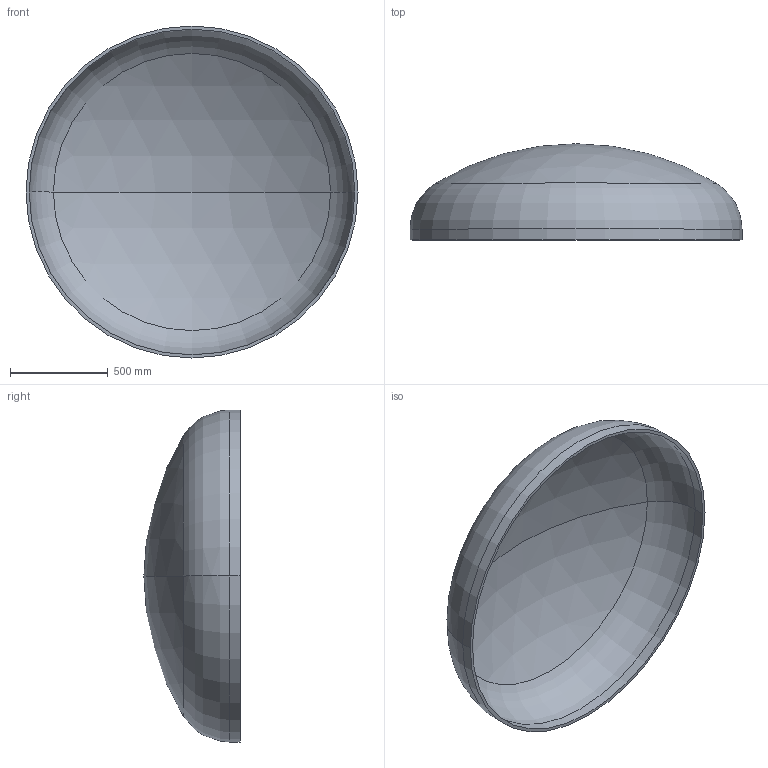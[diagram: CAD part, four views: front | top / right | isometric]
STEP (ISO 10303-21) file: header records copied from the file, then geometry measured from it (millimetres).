
FILE_DESCRIPTION (( 'STEP AP203' ), '1' );
FILE_NAME ('DIN 28013 Korbbogenform_-_Boden DIN 28013 - 1700 x 55 - I - s=16.step', '2016-07-01T11:38:57', ( '' ), ( '' ), 'SwSTEP 2.0', 'SolidWorks 2013', '' );
FILE_SCHEMA (( 'CONFIG_CONTROL_DESIGN' ));
Length unit declared in the file: millimetre
Products named in the file (1): DIN 28013 Korbbogenform_-_Boden DIN 28013 - 1700 x 55 - I - s=16
Bounding box: 1700 x 492.64 x 1700 mm (x, y, z)
Volume: 54264813.8 mm3; surface area: 6868282.5 mm2
Topology: 1 solids, 1 shells, 13 faces, 24 edges, 14 vertices
Faces by surface type: torus 4, cylinder 4, sphere 4, plane 1
Entity records: 407 total; most frequent: DIRECTION 72, CARTESIAN_POINT 52, ORIENTED_EDGE 48, AXIS2_PLACEMENT_3D 34, EDGE_CURVE 24, CIRCLE 20, VERTEX_POINT 14, EDGE_LOOP 14
